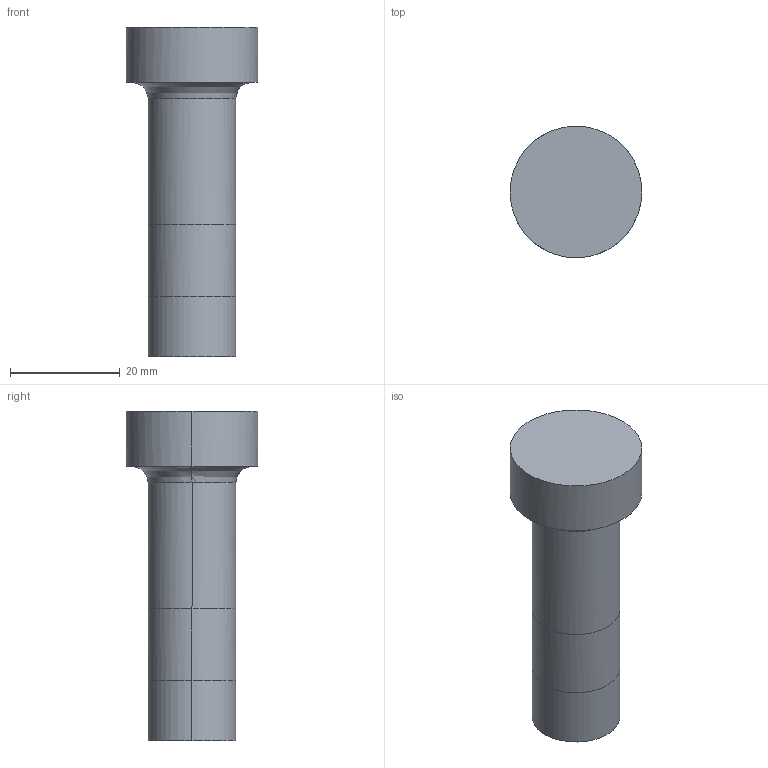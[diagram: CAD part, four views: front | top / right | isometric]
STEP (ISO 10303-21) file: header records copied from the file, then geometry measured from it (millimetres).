
FILE_DESCRIPTION(/* description */ (''),/* implementation_level */ '2;1');
FILE_NAME(/* name */ 'Bolt',/* time_stamp */ '2023-04-19T22:57:00-04:00',/* author */ (''),/* organization */ (''),/* preprocessor_version */ 'ST-DEVELOPER v15',/* originating_system */ '',/* authorisation */ '');
FILE_SCHEMA (('CONFIG_CONTROL_DESIGN'));
Length unit declared in the file: millimetre
Products named in the file (1): Document
Bounding box: 24 x 23.96 x 60 mm (x, y, z)
Volume: 14722.9 mm3; surface area: 4117 mm2
Topology: 1 solids, 1 shells, 13 faces, 24 edges, 14 vertices
Faces by surface type: bspline 13
Entity records: 938 total; most frequent: CARTESIAN_POINT 554, ORIENTED_EDGE 48, PCURVE 48, DEFINITIONAL_REPRESENTATION 48, B_SPLINE_CURVE_WITH_KNOTS 42, SURFACE_CURVE 24, EDGE_CURVE 24, EDGE_LOOP 14
